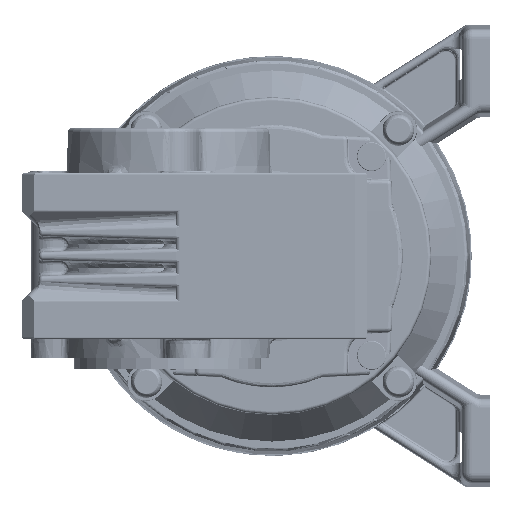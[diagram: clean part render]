
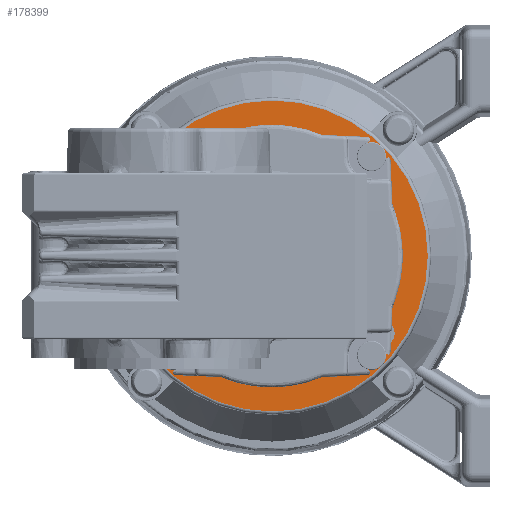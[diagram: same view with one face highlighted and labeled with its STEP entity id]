
A CAD part, left-side view. The second image highlights one B-rep face of the part: STEP entity #178399.
In plain terms, the highlighted planar face has unit normal (-1, 0, 0).
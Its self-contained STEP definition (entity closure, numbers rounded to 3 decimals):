
#567 = CARTESIAN_POINT ( 'NONE',  ( -29.199, 149.28, 147.178 ) ) ;
#1993 = FACE_BOUND ( 'NONE', #51810, .T. ) ;
#2867 = EDGE_CURVE ( 'NONE', #73393, #83328, #18848, .T. ) ;
#3996 = ORIENTED_EDGE ( 'NONE', *, *, #160175, .F. ) ;
#4526 = ORIENTED_EDGE ( 'NONE', *, *, #85403, .F. ) ;
#5442 = EDGE_CURVE ( 'NONE', #181092, #27438, #14960, .T. ) ;
#9353 = EDGE_LOOP ( 'NONE', ( #112331, #68067 ) ) ;
#10905 = CARTESIAN_POINT ( 'NONE',  ( -29.199, 147.7, 171.065 ) ) ;
#11798 = CARTESIAN_POINT ( 'NONE',  ( -29.199, 123.813, 147.178 ) ) ;
#12682 = CARTESIAN_POINT ( 'NONE',  ( -29.199, 86.41, 147.178 ) ) ;
#14960 = CIRCLE ( 'NONE', #18222, 3. ) ;
#15335 = EDGE_LOOP ( 'NONE', ( #61786, #188270 ) ) ;
#15455 = FACE_BOUND ( 'NONE', #15335, .T. ) ;
#15472 = VERTEX_POINT ( 'NONE', #54569 ) ;
#16481 = FACE_BOUND ( 'NONE', #130606, .T. ) ;
#17590 = ORIENTED_EDGE ( 'NONE', *, *, #157606, .T. ) ;
#18222 = AXIS2_PLACEMENT_3D ( 'NONE', #137999, #44494, #123374 ) ;
#18848 = CIRCLE ( 'NONE', #40720, 1.93 ) ;
#21952 = ORIENTED_EDGE ( 'NONE', *, *, #98678, .T. ) ;
#24715 = DIRECTION ( 'NONE',  ( 0., 0., -1. ) ) ;
#25001 = DIRECTION ( 'NONE',  ( -1., 0., 0. ) ) ;
#26387 = EDGE_CURVE ( 'NONE', #170523, #28164, #52070, .T. ) ;
#27438 = VERTEX_POINT ( 'NONE', #49957 ) ;
#27482 = DIRECTION ( 'NONE',  ( 0., 0., 1. ) ) ;
#28164 = VERTEX_POINT ( 'NONE', #67845 ) ;
#28840 = CIRCLE ( 'NONE', #144918, 1.93 ) ;
#30886 = ORIENTED_EDGE ( 'NONE', *, *, #67592, .F. ) ;
#33677 = DIRECTION ( 'NONE',  ( 0., 0., 1. ) ) ;
#36144 = FACE_BOUND ( 'NONE', #103458, .T. ) ;
#37774 = CIRCLE ( 'NONE', #123853, 1.93 ) ;
#39233 = EDGE_CURVE ( 'NONE', #28164, #170523, #100145, .T. ) ;
#40269 = CARTESIAN_POINT ( 'NONE',  ( -29.199, 99.925, 123.29 ) ) ;
#40720 = AXIS2_PLACEMENT_3D ( 'NONE', #184264, #89782, #196799 ) ;
#43066 = DIRECTION ( 'NONE',  ( 1., 0., 0. ) ) ;
#44494 = DIRECTION ( 'NONE',  ( 1., 0., 0. ) ) ;
#45728 = VERTEX_POINT ( 'NONE', #142666 ) ;
#49957 = CARTESIAN_POINT ( 'NONE',  ( -29.199, 97.374, 125.561 ) ) ;
#51672 = FACE_OUTER_BOUND ( 'NONE', #127760, .T. ) ;
#51810 = EDGE_LOOP ( 'NONE', ( #142606, #176002 ) ) ;
#51971 = DIRECTION ( 'NONE',  ( 1., 0., 0. ) ) ;
#52070 = CIRCLE ( 'NONE', #174708, 1.93 ) ;
#52101 = AXIS2_PLACEMENT_3D ( 'NONE', #40269, #56857, #89003 ) ;
#54569 = CARTESIAN_POINT ( 'NONE',  ( -29.199, 145.77, 171.065 ) ) ;
#54659 = VERTEX_POINT ( 'NONE', #66915 ) ;
#54729 = DIRECTION ( 'NONE',  ( 0., 0., 1. ) ) ;
#55547 = CARTESIAN_POINT ( 'NONE',  ( -29.199, 149.63, 171.065 ) ) ;
#55887 = CARTESIAN_POINT ( 'NONE',  ( -29.199, 123.813, 147.178 ) ) ;
#56857 = DIRECTION ( 'NONE',  ( 1., 0., 0. ) ) ;
#58050 = CARTESIAN_POINT ( 'NONE',  ( -29.199, 123.813, 147.178 ) ) ;
#59107 = CARTESIAN_POINT ( 'NONE',  ( -29.199, 149.63, 123.29 ) ) ;
#61786 = ORIENTED_EDGE ( 'NONE', *, *, #2867, .T. ) ;
#63394 = CIRCLE ( 'NONE', #116468, 1.93 ) ;
#64180 = CIRCLE ( 'NONE', #143844, 3. ) ;
#65234 = AXIS2_PLACEMENT_3D ( 'NONE', #133604, #132582, #54729 ) ;
#66915 = CARTESIAN_POINT ( 'NONE',  ( -29.199, 101.855, 123.29 ) ) ;
#67394 = CIRCLE ( 'NONE', #120476, 25.467 ) ;
#67592 = EDGE_CURVE ( 'NONE', #83970, #45728, #67394, .T. ) ;
#67752 = EDGE_CURVE ( 'NONE', #83328, #73393, #37774, .T. ) ;
#67845 = CARTESIAN_POINT ( 'NONE',  ( -29.199, 145.77, 123.29 ) ) ;
#68067 = ORIENTED_EDGE ( 'NONE', *, *, #5442, .T. ) ;
#73393 = VERTEX_POINT ( 'NONE', #191728 ) ;
#78407 = VERTEX_POINT ( 'NONE', #81215 ) ;
#79725 = CARTESIAN_POINT ( 'NONE',  ( -29.199, 99.925, 171.065 ) ) ;
#81215 = CARTESIAN_POINT ( 'NONE',  ( -29.199, 97.995, 123.29 ) ) ;
#81787 = ORIENTED_EDGE ( 'NONE', *, *, #109288, .T. ) ;
#83328 = VERTEX_POINT ( 'NONE', #197708 ) ;
#83970 = VERTEX_POINT ( 'NONE', #567 ) ;
#84210 = CARTESIAN_POINT ( 'NONE',  ( -29.199, 97.374, 128.561 ) ) ;
#85403 = EDGE_CURVE ( 'NONE', #45728, #83970, #103656, .T. ) ;
#86232 = DIRECTION ( 'NONE',  ( 0., 0., 1. ) ) ;
#89003 = DIRECTION ( 'NONE',  ( 0., 0., 1. ) ) ;
#89782 = DIRECTION ( 'NONE',  ( 1., 0., 0. ) ) ;
#90711 = DIRECTION ( 'NONE',  ( 1., 0., 0. ) ) ;
#91751 = DIRECTION ( 'NONE',  ( 0., 0., 1. ) ) ;
#96176 = ORIENTED_EDGE ( 'NONE', *, *, #182268, .F. ) ;
#98678 = EDGE_CURVE ( 'NONE', #54659, #78407, #63394, .T. ) ;
#100145 = CIRCLE ( 'NONE', #179674, 1.93 ) ;
#102498 = CARTESIAN_POINT ( 'NONE',  ( -29.199, 161.215, 147.178 ) ) ;
#103458 = EDGE_LOOP ( 'NONE', ( #21952, #136455 ) ) ;
#103519 = DIRECTION ( 'NONE',  ( 1., 0., 0. ) ) ;
#103656 = CIRCLE ( 'NONE', #199950, 25.467 ) ;
#107336 = CARTESIAN_POINT ( 'NONE',  ( -29.199, 147.7, 123.29 ) ) ;
#108153 = DIRECTION ( 'NONE',  ( 0., 0., -1. ) ) ;
#109288 = EDGE_CURVE ( 'NONE', #205110, #15472, #176902, .T. ) ;
#112331 = ORIENTED_EDGE ( 'NONE', *, *, #145037, .T. ) ;
#112538 = VERTEX_POINT ( 'NONE', #102498 ) ;
#116434 = DIRECTION ( 'NONE',  ( 1., 0., 0. ) ) ;
#116468 = AXIS2_PLACEMENT_3D ( 'NONE', #142432, #51971, #157952 ) ;
#117618 = EDGE_CURVE ( 'NONE', #78407, #54659, #125004, .T. ) ;
#120476 = AXIS2_PLACEMENT_3D ( 'NONE', #58050, #172160, #122392 ) ;
#122340 = AXIS2_PLACEMENT_3D ( 'NONE', #55887, #103519, #24715 ) ;
#122392 = DIRECTION ( 'NONE',  ( 0., 0., 1. ) ) ;
#123374 = DIRECTION ( 'NONE',  ( 0., 0., 1. ) ) ;
#123853 = AXIS2_PLACEMENT_3D ( 'NONE', #79725, #199768, #165540 ) ;
#125004 = CIRCLE ( 'NONE', #52101, 1.93 ) ;
#127184 = AXIS2_PLACEMENT_3D ( 'NONE', #201686, #202696, #168466 ) ;
#127616 = CARTESIAN_POINT ( 'NONE',  ( -29.199, 97.374, 131.561 ) ) ;
#127760 = EDGE_LOOP ( 'NONE', ( #96176, #3996 ) ) ;
#130606 = EDGE_LOOP ( 'NONE', ( #30886, #4526 ) ) ;
#132582 = DIRECTION ( 'NONE',  ( -1., 0., 0. ) ) ;
#133604 = CARTESIAN_POINT ( 'NONE',  ( -29.199, 155.596, 147.178 ) ) ;
#135901 = AXIS2_PLACEMENT_3D ( 'NONE', #11798, #153908, #108153 ) ;
#136455 = ORIENTED_EDGE ( 'NONE', *, *, #117618, .T. ) ;
#137999 = CARTESIAN_POINT ( 'NONE',  ( -29.199, 97.374, 128.561 ) ) ;
#142124 = FACE_BOUND ( 'NONE', #171334, .T. ) ;
#142432 = CARTESIAN_POINT ( 'NONE',  ( -29.199, 99.925, 123.29 ) ) ;
#142606 = ORIENTED_EDGE ( 'NONE', *, *, #26387, .T. ) ;
#142666 = CARTESIAN_POINT ( 'NONE',  ( -29.199, 98.345, 147.178 ) ) ;
#143844 = AXIS2_PLACEMENT_3D ( 'NONE', #84210, #116434, #86232 ) ;
#144918 = AXIS2_PLACEMENT_3D ( 'NONE', #10905, #90711, #91751 ) ;
#145037 = EDGE_CURVE ( 'NONE', #27438, #181092, #64180, .T. ) ;
#153908 = DIRECTION ( 'NONE',  ( 1., 0., 0. ) ) ;
#157270 = DIRECTION ( 'NONE',  ( 1., 0., 0. ) ) ;
#157606 = EDGE_CURVE ( 'NONE', #15472, #205110, #28840, .T. ) ;
#157952 = DIRECTION ( 'NONE',  ( 0., 0., 1. ) ) ;
#160175 = EDGE_CURVE ( 'NONE', #177897, #112538, #178678, .T. ) ;
#165501 = CIRCLE ( 'NONE', #135901, 37.403 ) ;
#165540 = DIRECTION ( 'NONE',  ( 0., 0., 1. ) ) ;
#167185 = DIRECTION ( 'NONE',  ( 0., 0., 1. ) ) ;
#168466 = DIRECTION ( 'NONE',  ( 0., 0., 1. ) ) ;
#170523 = VERTEX_POINT ( 'NONE', #59107 ) ;
#171334 = EDGE_LOOP ( 'NONE', ( #81787, #17590 ) ) ;
#172160 = DIRECTION ( 'NONE',  ( -1., 0., 0. ) ) ;
#174708 = AXIS2_PLACEMENT_3D ( 'NONE', #189371, #157270, #33677 ) ;
#176002 = ORIENTED_EDGE ( 'NONE', *, *, #39233, .T. ) ;
#176902 = CIRCLE ( 'NONE', #127184, 1.93 ) ;
#177897 = VERTEX_POINT ( 'NONE', #12682 ) ;
#178399 = ADVANCED_FACE ( 'NONE', ( #193877, #51672, #1993, #36144, #15455, #142124, #16481 ), #205395, .T. ) ;
#178678 = CIRCLE ( 'NONE', #122340, 37.403 ) ;
#179674 = AXIS2_PLACEMENT_3D ( 'NONE', #107336, #43066, #27482 ) ;
#181092 = VERTEX_POINT ( 'NONE', #127616 ) ;
#182268 = EDGE_CURVE ( 'NONE', #112538, #177897, #165501, .T. ) ;
#183743 = CARTESIAN_POINT ( 'NONE',  ( -29.199, 123.813, 147.178 ) ) ;
#184264 = CARTESIAN_POINT ( 'NONE',  ( -29.199, 99.925, 171.065 ) ) ;
#188270 = ORIENTED_EDGE ( 'NONE', *, *, #67752, .T. ) ;
#189371 = CARTESIAN_POINT ( 'NONE',  ( -29.199, 147.7, 123.29 ) ) ;
#191728 = CARTESIAN_POINT ( 'NONE',  ( -29.199, 101.855, 171.065 ) ) ;
#193877 = FACE_BOUND ( 'NONE', #9353, .T. ) ;
#196799 = DIRECTION ( 'NONE',  ( 0., 0., 1. ) ) ;
#197708 = CARTESIAN_POINT ( 'NONE',  ( -29.199, 97.995, 171.065 ) ) ;
#199768 = DIRECTION ( 'NONE',  ( 1., 0., 0. ) ) ;
#199950 = AXIS2_PLACEMENT_3D ( 'NONE', #183743, #25001, #167185 ) ;
#201686 = CARTESIAN_POINT ( 'NONE',  ( -29.199, 147.7, 171.065 ) ) ;
#202696 = DIRECTION ( 'NONE',  ( 1., 0., 0. ) ) ;
#205110 = VERTEX_POINT ( 'NONE', #55547 ) ;
#205395 = PLANE ( 'NONE',  #65234 ) ;
